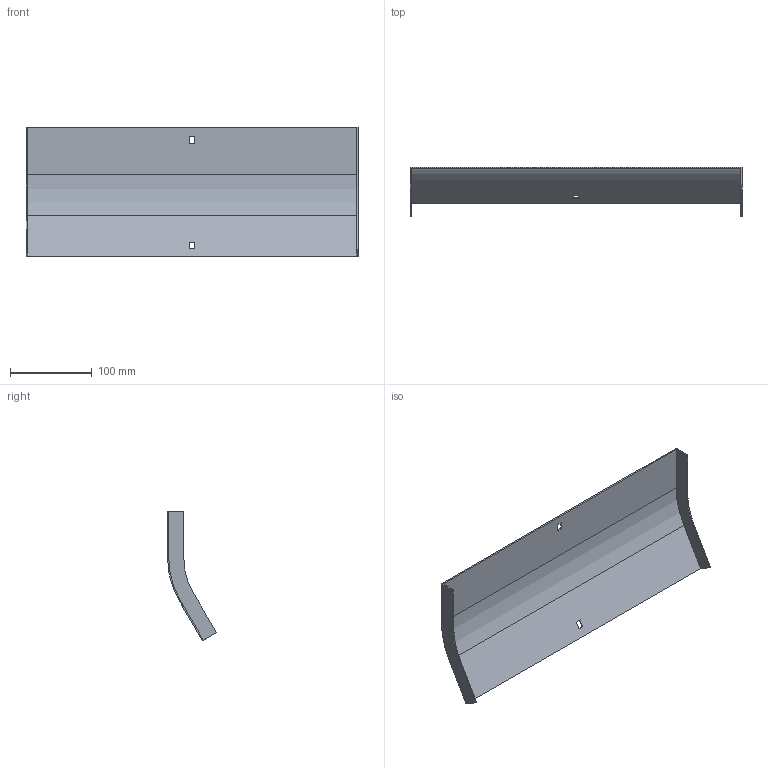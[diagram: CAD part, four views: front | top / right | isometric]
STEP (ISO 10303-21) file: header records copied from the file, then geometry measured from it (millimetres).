
FILE_DESCRIPTION (( 'STEP AP214' ), '1' );
FILE_NAME ('35G1D400.step', '2025-02-21T12:40:47', ( '' ), ( '' ), 'SwSTEP 2.0', 'SolidWorks 2023', '' );
FILE_SCHEMA (( 'AUTOMOTIVE_DESIGN' ));
Length unit declared in the file: millimetre
Products named in the file (1): 35G1D400
Bounding box: 407 x 59.87 x 158.79 mm (x, y, z)
Volume: 111789.9 mm3; surface area: 150954.8 mm2
Topology: 1 solids, 1 shells, 26 faces, 72 edges, 48 vertices
Faces by surface type: plane 22, cylinder 4
Entity records: 855 total; most frequent: CARTESIAN_POINT 147, ORIENTED_EDGE 144, DIRECTION 134, EDGE_CURVE 72, LINE 64, VECTOR 64, VERTEX_POINT 48, AXIS2_PLACEMENT_3D 35
